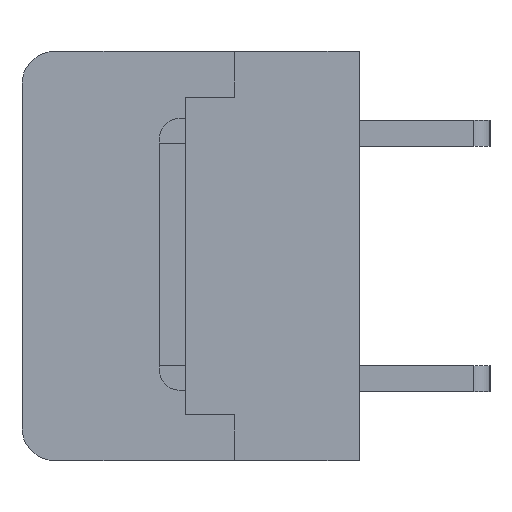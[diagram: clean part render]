
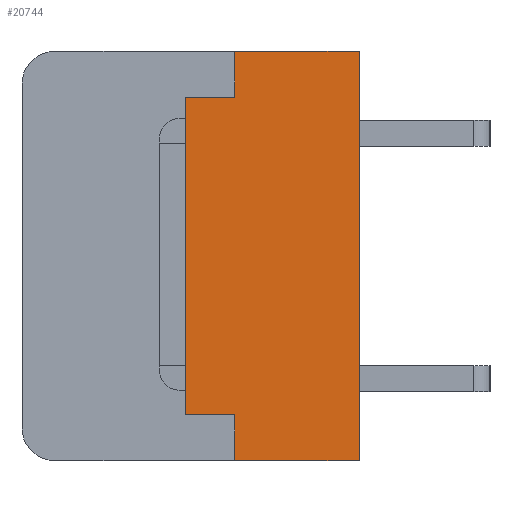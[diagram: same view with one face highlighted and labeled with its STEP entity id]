
A CAD part, left-side view. The second image highlights one B-rep face of the part: STEP entity #20744.
In plain terms, the highlighted planar face has unit normal (-1, 0, 0).
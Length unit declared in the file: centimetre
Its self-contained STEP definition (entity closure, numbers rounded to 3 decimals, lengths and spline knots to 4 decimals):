
#1279=PLANE('',#33785);
#1997=VECTOR('',#22012,1.);
#2098=VECTOR('',#22169,1.);
#2124=VECTOR('',#22196,1.);
#3042=VECTOR('',#24236,1.);
#3232=VECTOR('',#24666,1.);
#3233=VECTOR('',#24667,1.);
#3234=VECTOR('',#24668,1.);
#3235=VECTOR('',#24669,1.);
#4209=LINE('',#27284,#1997);
#4310=LINE('',#27512,#2098);
#4336=LINE('',#27563,#2124);
#5254=LINE('',#30478,#3042);
#5444=LINE('',#31081,#3232);
#5445=LINE('',#31083,#3233);
#5446=LINE('',#31084,#3234);
#5447=LINE('',#31086,#3235);
#6355=VERTEX_POINT('',#27283);
#6356=VERTEX_POINT('',#27285);
#6414=VERTEX_POINT('',#27452);
#6443=VERTEX_POINT('',#27511);
#6467=VERTEX_POINT('',#27562);
#6468=VERTEX_POINT('',#27564);
#7519=VERTEX_POINT('',#31082);
#7520=VERTEX_POINT('',#31085);
#8998=EDGE_CURVE('',#6355,#6356,#4209,.T.);
#9111=EDGE_CURVE('',#6443,#6414,#4310,.T.);
#9137=EDGE_CURVE('',#6467,#6468,#4336,.T.);
#10477=EDGE_CURVE('',#6414,#6467,#5254,.T.);
#10755=EDGE_CURVE('',#7519,#6443,#5444,.T.);
#10756=EDGE_CURVE('',#6356,#7519,#5445,.T.);
#10757=EDGE_CURVE('',#7520,#6355,#5446,.T.);
#10758=EDGE_CURVE('',#6468,#7520,#5447,.T.);
#16308=ORIENTED_EDGE('',*,*,#10755,.F.);
#16309=ORIENTED_EDGE('',*,*,#10756,.F.);
#16310=ORIENTED_EDGE('',*,*,#8998,.F.);
#16311=ORIENTED_EDGE('',*,*,#10757,.F.);
#16312=ORIENTED_EDGE('',*,*,#10758,.F.);
#16313=ORIENTED_EDGE('',*,*,#9137,.F.);
#16314=ORIENTED_EDGE('',*,*,#10477,.F.);
#16315=ORIENTED_EDGE('',*,*,#9111,.F.);
#18348=EDGE_LOOP('',(#16308,#16309,#16310,#16311,#16312,#16313,#16314,#16315));
#19592=FACE_BOUND('',#18348,.T.);
#20744=ADVANCED_FACE('',(#19592),#1279,.F.);
#22012=DIRECTION('',(0.,0.,1.));
#22169=DIRECTION('',(0.,-1.,0.));
#22196=DIRECTION('',(0.,1.,0.));
#24236=DIRECTION('',(0.,0.,-1.));
#24665=DIRECTION('',(1.,0.,0.));
#24666=DIRECTION('',(0.,0.,1.));
#24667=DIRECTION('',(0.,-1.,0.));
#24668=DIRECTION('',(0.,1.,0.));
#24669=DIRECTION('',(0.,0.,1.));
#27283=CARTESIAN_POINT('',(-1.382,0.53,-0.485));
#27284=CARTESIAN_POINT('',(-1.382,0.53,-0.485));
#27285=CARTESIAN_POINT('',(-1.382,0.53,0.485));
#27452=CARTESIAN_POINT('',(-1.382,0.,0.625));
#27511=CARTESIAN_POINT('',(-1.382,0.38,0.625));
#27512=CARTESIAN_POINT('',(-1.382,0.38,0.625));
#27562=CARTESIAN_POINT('',(-1.382,0.,-0.625));
#27563=CARTESIAN_POINT('',(-1.382,0.,-0.625));
#27564=CARTESIAN_POINT('',(-1.382,0.38,-0.625));
#30478=CARTESIAN_POINT('',(-1.382,0.,0.625));
#31080=CARTESIAN_POINT('',(-1.382,0.2532,0.));
#31081=CARTESIAN_POINT('',(-1.382,0.38,0.485));
#31082=CARTESIAN_POINT('',(-1.382,0.38,0.485));
#31083=CARTESIAN_POINT('',(-1.382,0.53,0.485));
#31084=CARTESIAN_POINT('',(-1.382,0.38,-0.485));
#31085=CARTESIAN_POINT('',(-1.382,0.38,-0.485));
#31086=CARTESIAN_POINT('',(-1.382,0.38,-0.625));
#33785=AXIS2_PLACEMENT_3D('',#31080,#24665,$);
